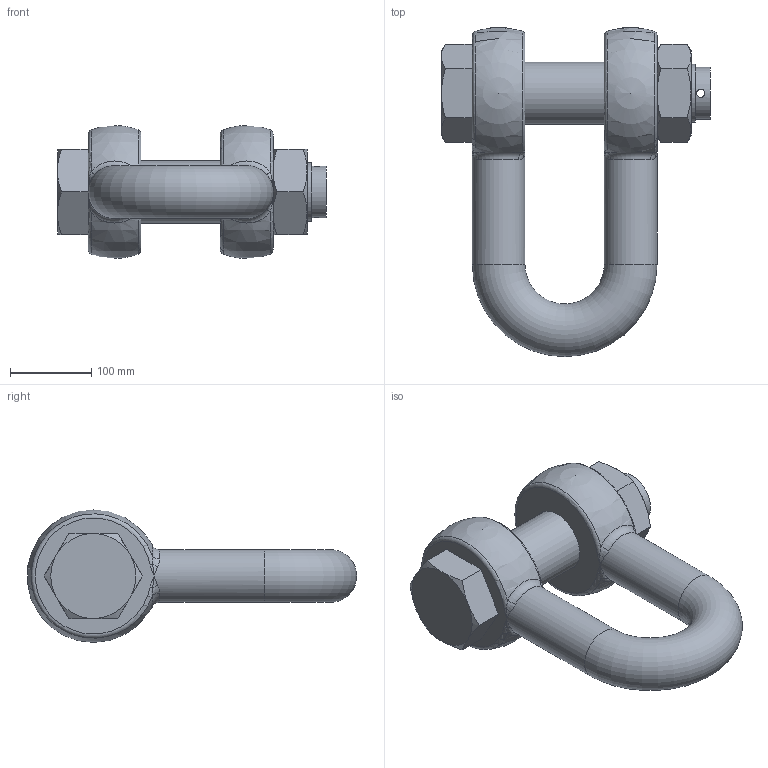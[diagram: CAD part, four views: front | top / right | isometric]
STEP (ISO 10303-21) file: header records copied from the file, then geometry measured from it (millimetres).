
FILE_DESCRIPTION(/* description */ (''),/* implementation_level */ '2;1');
FILE_NAME(/* name */ 'C:\Users\D\Documents\Inventor\HP\吊具\シャックル\SB_2\sb_65.stp',/* time_stamp */ '2024-11-14T11:44:20+09:00',/* author */ ('D'),/* organization */ (''),/* preprocessor_version */ 'ST-DEVELOPER v18',/* originating_system */ 'Autodesk Inventor 2020',/* authorisation */ '');
FILE_SCHEMA (('AUTOMOTIVE_DESIGN { 1 0 10303 214 3 1 1 }'));
Length unit declared in the file: millimetre
Products named in the file (3): sb_65; sb_6; sb_pin_10
Assembly tree (2 placements, depth 2):
  sb_65
    sb_6
    sb_pin_10
Bounding box: 332 x 406.4 x 164 mm (x, y, z)
Volume: 5585315.4 mm3; surface area: 368932.6 mm2
Topology: 2 solids, 2 shells, 85 faces, 219 edges, 121 vertices
Faces by surface type: bspline 24, plane 22, cone 19, cylinder 9, torus 9, sphere 2
Full cylindrical faces by diameter (mm): 10 x1, 64 x1, 65 x2, 72 x2, 77 x1, 79 x2
Entity records: 3276 total; most frequent: CARTESIAN_POINT 1417, ORIENTED_EDGE 398, DIRECTION 339, EDGE_CURVE 199, AXIS2_PLACEMENT_3D 155, VERTEX_POINT 121, EDGE_LOOP 94, CIRCLE 89
